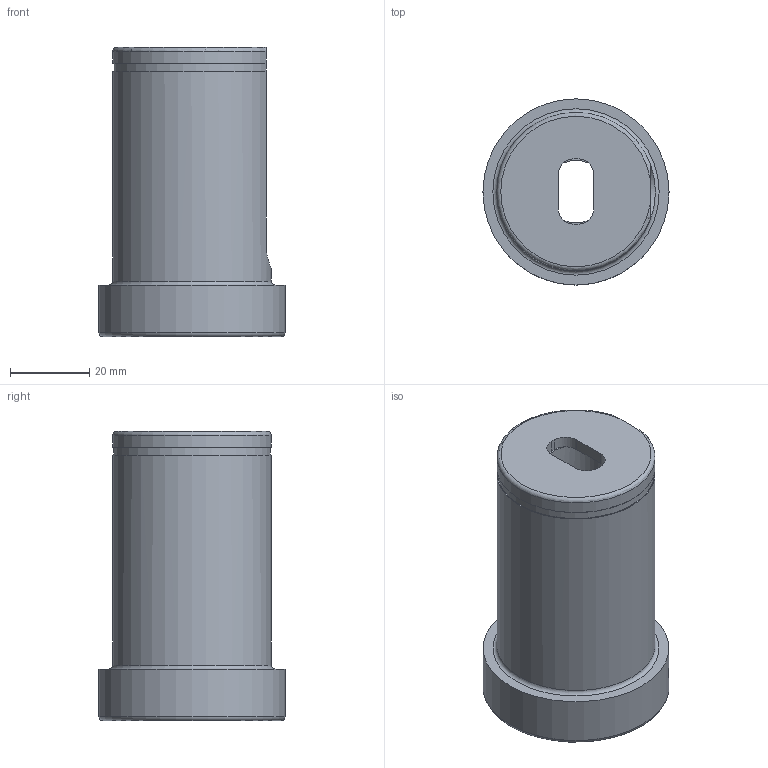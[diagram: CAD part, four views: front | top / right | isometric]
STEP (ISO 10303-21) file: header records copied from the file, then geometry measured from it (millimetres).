
FILE_DESCRIPTION(/* description */ (''),/* implementation_level */ '2;1');
FILE_NAME(/* name */ 'D40-MT2.stp',/* time_stamp */ '2025-12-09T08:28:14+03:00',/* author */ ('User'),/* organization */ (''),/* preprocessor_version */ 'ST-DEVELOPER v19.2',/* originating_system */ 'Autodesk Inventor 2024',/* authorisation */ '');
FILE_SCHEMA (('AUTOMOTIVE_DESIGN { 1 0 10303 214 3 1 1 }'));
Length unit declared in the file: millimetre
Products named in the file (1): D40-MT4
Bounding box: 47 x 47 x 73 mm (x, y, z)
Volume: 82056 mm3; surface area: 16215.1 mm2
Topology: 1 solids, 1 shells, 28 faces, 71 edges, 46 vertices
Faces by surface type: plane 14, cylinder 10, torus 3, cone 1
Full cylindrical faces by diameter (mm): 15.782 x1, 40 x1, 47 x1
Entity records: 970 total; most frequent: CARTESIAN_POINT 190, DIRECTION 161, ORIENTED_EDGE 142, EDGE_CURVE 71, AXIS2_PLACEMENT_3D 65, VERTEX_POINT 46, CIRCLE 36, LINE 31
